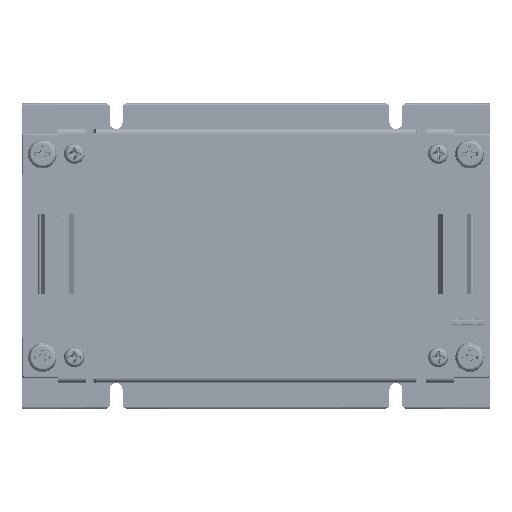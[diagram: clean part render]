
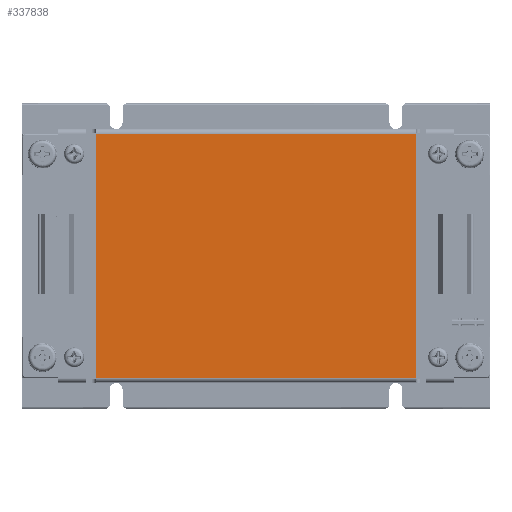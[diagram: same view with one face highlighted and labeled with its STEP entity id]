
A CAD part, top view. The second image highlights one B-rep face of the part: STEP entity #337838.
In plain terms, the highlighted planar face has unit normal (0, 0, 1).
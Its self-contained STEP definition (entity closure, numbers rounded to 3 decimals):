
#3123 = ORIENTED_EDGE ( 'NONE', *, *, #333751, .F. ) ;
#7299 = DIRECTION ( 'NONE',  ( 1., 0., 0. ) ) ;
#13634 = CARTESIAN_POINT ( 'NONE',  ( 56.988, 40.707, 16.7 ) ) ;
#21837 = CARTESIAN_POINT ( 'NONE',  ( 56.988, -20.453, 16.7 ) ) ;
#38647 = PLANE ( 'NONE',  #342890 ) ;
#41090 = CARTESIAN_POINT ( 'NONE',  ( 56.988, -20.253, 16.7 ) ) ;
#61409 = LINE ( 'NONE', #89310, #311555 ) ;
#89310 = CARTESIAN_POINT ( 'NONE',  ( -23.012, -20.253, 16.7 ) ) ;
#95143 = EDGE_CURVE ( 'NONE', #277644, #213996, #61409, .T. ) ;
#97882 = CARTESIAN_POINT ( 'NONE',  ( -23.012, -20.453, 16.7 ) ) ;
#103554 = VECTOR ( 'NONE', #120124, 1000. ) ;
#120124 = DIRECTION ( 'NONE',  ( -1., 0., 0. ) ) ;
#130064 = CARTESIAN_POINT ( 'NONE',  ( -23.012, -20.253, 16.7 ) ) ;
#140972 = EDGE_CURVE ( 'NONE', #213996, #257878, #264489, .T. ) ;
#147462 = CARTESIAN_POINT ( 'NONE',  ( 56.988, 40.707, 16.7 ) ) ;
#157566 = ORIENTED_EDGE ( 'NONE', *, *, #140972, .T. ) ;
#163594 = ORIENTED_EDGE ( 'NONE', *, *, #291728, .T. ) ;
#171350 = FACE_OUTER_BOUND ( 'NONE', #205443, .T. ) ;
#171377 = CARTESIAN_POINT ( 'NONE',  ( -23.012, -20.453, 16.7 ) ) ;
#192481 = DIRECTION ( 'NONE',  ( 0., 1., 0. ) ) ;
#197589 = LINE ( 'NONE', #171377, #203054 ) ;
#203054 = VECTOR ( 'NONE', #192481, 1000. ) ;
#205443 = EDGE_LOOP ( 'NONE', ( #157566, #163594, #3123, #240236 ) ) ;
#213996 = VERTEX_POINT ( 'NONE', #41090 ) ;
#225439 = DIRECTION ( 'NONE',  ( 0., 0., 1. ) ) ;
#240236 = ORIENTED_EDGE ( 'NONE', *, *, #95143, .T. ) ;
#257878 = VERTEX_POINT ( 'NONE', #147462 ) ;
#264489 = LINE ( 'NONE', #21837, #310118 ) ;
#277644 = VERTEX_POINT ( 'NONE', #130064 ) ;
#279052 = LINE ( 'NONE', #13634, #103554 ) ;
#291728 = EDGE_CURVE ( 'NONE', #257878, #326189, #279052, .T. ) ;
#310118 = VECTOR ( 'NONE', #315196, 1000. ) ;
#311555 = VECTOR ( 'NONE', #7299, 1000. ) ;
#315196 = DIRECTION ( 'NONE',  ( 0., 1., 0. ) ) ;
#326189 = VERTEX_POINT ( 'NONE', #337064 ) ;
#331988 = DIRECTION ( 'NONE',  ( 0., -1., 0. ) ) ;
#333751 = EDGE_CURVE ( 'NONE', #277644, #326189, #197589, .T. ) ;
#337064 = CARTESIAN_POINT ( 'NONE',  ( -23.012, 40.707, 16.7 ) ) ;
#337838 = ADVANCED_FACE ( 'NONE', ( #171350 ), #38647, .T. ) ;
#342890 = AXIS2_PLACEMENT_3D ( 'NONE', #97882, #225439, #331988 ) ;
